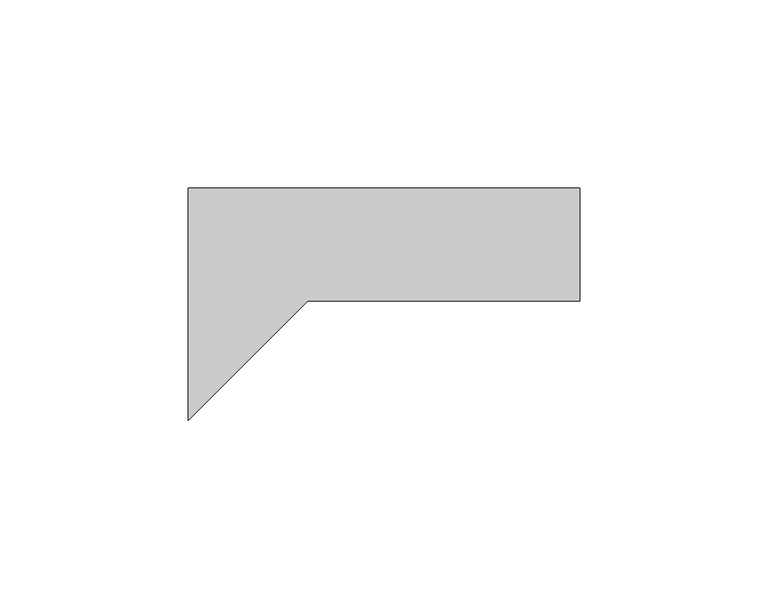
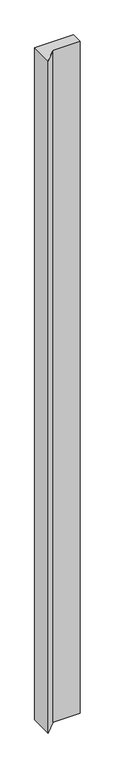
"""IFC4 building model written with IfcOpenShell, lengths in millimetres: plate geometry, ATELIERS 3S_EPURE CDB 200_VERTICAL : AZURO."""

from ifc_helpers import new_model, si_unit, origin, origin_with_axes, place, context, project, spatial, polyline, outline, extrude, source, transform, mapped, element, save


def plate_23d42e5c(model_context):
    return source(origin(), model_context, "Body", "SweptSolid", [
        extrude(outline(polyline([(-51.9999998, 0.0), (51.9999998, 0.0), (51.9999998, -29.9980469), (-20.2928847, -29.9980469), (-51.9999998, -61.705162), (-51.9999998, 0.0)])), origin_with_axes(), (0.0, 0.0, 1.0), 1900.0),
    ])


if __name__ == "__main__":
    model = new_model("IFC4")
    model_context = context("Model", 3, world=origin())
    ifc_project = project(units=[si_unit("LENGTHUNIT", "METRE", prefix="MILLI")], contexts=[model_context])
    site = spatial("IfcSite", under=ifc_project)
    building = spatial("IfcBuilding", under=site)
    placement = place(None, origin())
    plate_shape = plate_23d42e5c(model_context)
    element("IfcPlate", 1, ObjectType="ATELIERS 3S_EPURE CDB 200_VERTICAL : AZURO", at=placement, inside=building, context=model_context, shape_type="MappedRepresentation", body=[
        mapped(plate_shape, transform((0.0, 0.0, 0.0), x_axis=(1.0, 0.0, 0.0), y_axis=(0.0, 1.0, 0.0), z_axis=(0.0, 0.0, 1.0))),
    ])
    save(model, "model.ifc")
